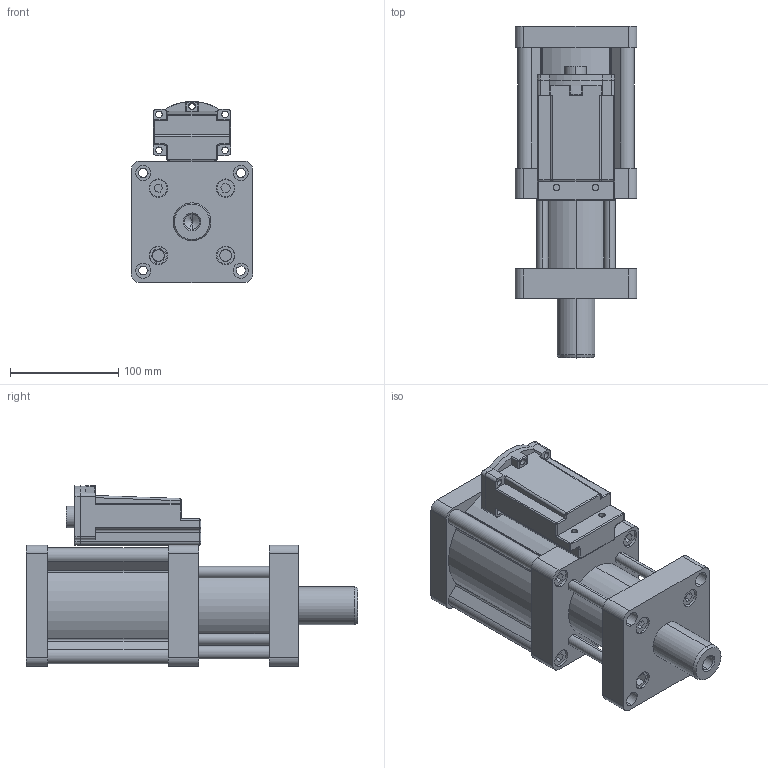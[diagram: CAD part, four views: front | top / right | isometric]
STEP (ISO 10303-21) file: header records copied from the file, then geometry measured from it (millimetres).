
FILE_DESCRIPTION (( 'STEP AP203' ), '1' );
FILE_NAME ('MPTC-63-5-3T.STEP', '2016-03-15T08:01:28', ( 'WIN' ), ( '' ), 'SwSTEP 2.0', 'SolidWorks 2014', '' );
FILE_SCHEMA (( 'CONFIG_CONTROL_DESIGN' ));
Length unit declared in the file: millimetre
Products named in the file (1): MPTC-63-5-3T
Bounding box: 112 x 306 x 166.97 mm (x, y, z)
Surface area: 330082.7 mm2 (no closed solid volume)
Topology: 0 solids, 6 shells, 463 faces, 1154 edges, 740 vertices
Faces by surface type: cylinder 229, plane 195, cone 24, sphere 8, torus 5, bspline 2
Entity records: 14302 total; most frequent: CARTESIAN_POINT 2805, DIRECTION 2499, ORIENTED_EDGE 2253, EDGE_CURVE 1138, AXIS2_PLACEMENT_3D 926, VERTEX_POINT 740, LINE 647, VECTOR 647
